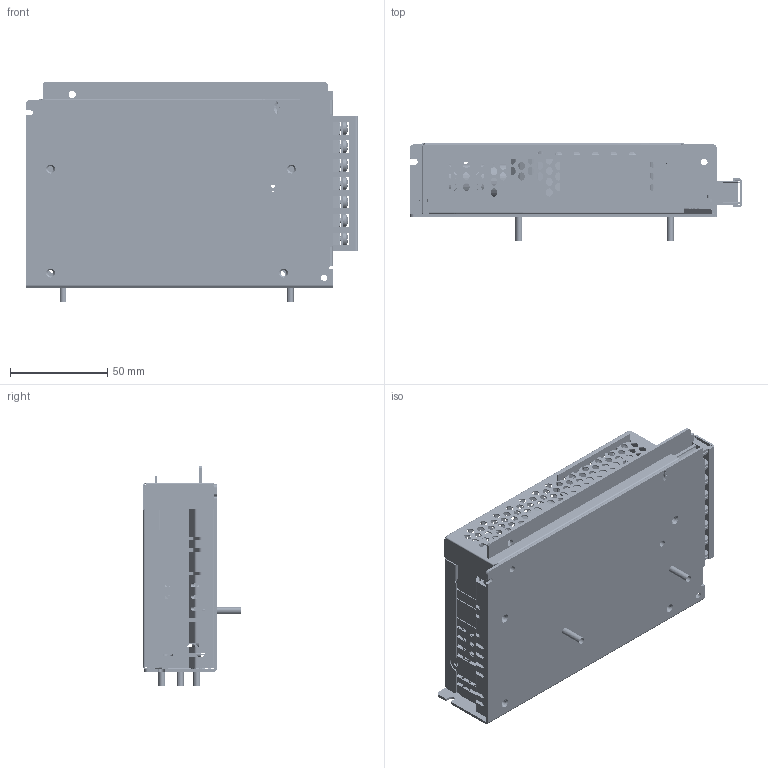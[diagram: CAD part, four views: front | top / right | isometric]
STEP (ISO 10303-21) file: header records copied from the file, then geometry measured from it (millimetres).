
FILE_DESCRIPTION((''),'2;1');
FILE_NAME('ASM-100W_ASM','2013-01-03T',('YVONNE.CHEN'),(''),'PRO/ENGINEER BY PARAMETRIC TECHNOLOGY CORPORATION, 2007450','PRO/ENGINEER BY PARAMETRIC TECHNOLOGY CORPORATION, 2007450','');
FILE_SCHEMA(('CONFIG_CONTROL_DESIGN'));
Length unit declared in the file: millimetre
Products named in the file (35): CHASSIS-100W; CHASSIS-100W-0719; CHASSIS-100W-0719-3MM; STUD_6-32_L7_5_12; STUD_6-32_L4_5_12; CHASSIS-100W_ASM; 100W-NEWCOVER; 100W-NEWCOVER-20120229; 100W-COVER-0719; PWB-100W; PWB-100W-0118; CONNECTOR_04_12; SCREW-CON_12; CONN_7P_ASSY_12_ASM; SCREW-6-32-4_8-SELF; VR1_; LEG1_; VR_LEG__ASM; BT24-KO31-07-M201-20120103; BT25U101; T24P101-20110103; BT24-KO31-07-M101-20120103; ASSEM1_ASM; T24-KO31-07_ASM; CON2_BODY; CON4_BODY; PMC_LED; LABEL; Q1; TO-247-100W; 3421226700; INSULATOR; D101; TO-247; ASM-100W_ASM
Assembly tree (67 placements, depth 4):
  ASM-100W_ASM
    CHASSIS-100W_ASM
      CHASSIS-100W
      CHASSIS-100W-0719
      CHASSIS-100W-0719-3MM
      STUD_6-32_L7_5_12  x2
      STUD_6-32_L4_5_12  x2
    100W-NEWCOVER
    100W-NEWCOVER-20120229
    100W-COVER-0719
    PWB-100W
    PWB-100W-0118
    CONN_7P_ASSY_12_ASM
      CONNECTOR_04_12
      SCREW-CON_12  x7
    SCREW-6-32-4_8-SELF
    VR_LEG__ASM
      VR1_
      LEG1_  x3
    T24-KO31-07_ASM
      ASSEM1_ASM
        BT24-KO31-07-M201-20120103
        BT25U101  x12
        T24P101-20110103  x12
        BT24-KO31-07-M101-20120103
    CON2_BODY
    CON4_BODY
    PMC_LED
    LABEL
    Q1
    TO-247-100W
    3421226700  x2
    INSULATOR
    D101
    TO-247
Bounding box: 170.95 x 50.81 x 113.5 mm (x, y, z)
Volume: 276290.7 mm3; surface area: 388557.7 mm2
Topology: 67 solids, 88 shells, 10875 faces, 30595 edges, 19801 vertices
Faces by surface type: cylinder 5103, plane 5023, cone 372, torus 158, bspline 132, extrusion 63, sphere 24
Entity records: 258346 total; most frequent: CARTESIAN_POINT 47812, DIRECTION 45348, ORIENTED_EDGE 42062, EDGE_CURVE 21084, AXIS2_PLACEMENT_3D 17081, VERTEX_POINT 13625, EDGE_LOOP 11560, VECTOR 11186
